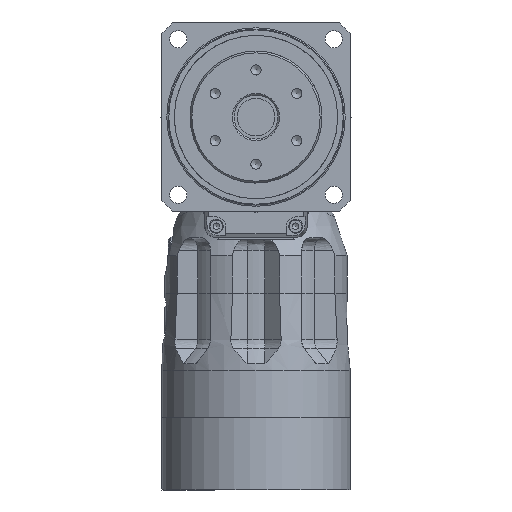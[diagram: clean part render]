
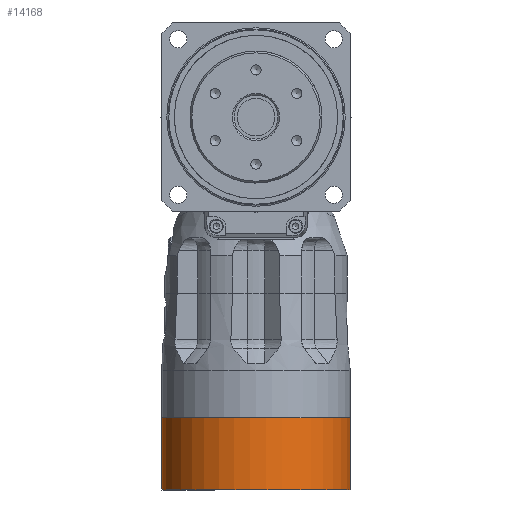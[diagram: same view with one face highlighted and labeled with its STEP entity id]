
A CAD part, left-side view. The second image highlights one B-rep face of the part: STEP entity #14168.
In plain terms, the highlighted cylindrical face has radius 30 mm (diameter 60 mm), a partial arc.
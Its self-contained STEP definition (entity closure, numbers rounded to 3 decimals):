
#2057=FACE_OUTER_BOUND('',#3035,.T.);
#3035=EDGE_LOOP('',(#12945,#12946,#12947,#12948));
#3835=LINE('',#27470,#4514);
#3840=LINE('',#27516,#4519);
#4514=VECTOR('',#20847,10.);
#4519=VECTOR('',#20892,10.);
#5567=CIRCLE('',#16544,30.);
#5588=CIRCLE('',#16569,30.);
#7084=VERTEX_POINT('',#27468);
#7085=VERTEX_POINT('',#27469);
#7088=VERTEX_POINT('',#27477);
#7106=VERTEX_POINT('',#27515);
#9051=EDGE_CURVE('',#7084,#7085,#3835,.T.);
#9056=EDGE_CURVE('',#7084,#7088,#5567,.T.);
#9074=EDGE_CURVE('',#7106,#7088,#3840,.T.);
#9080=EDGE_CURVE('',#7085,#7106,#5588,.T.);
#12945=ORIENTED_EDGE('',*,*,#9056,.F.);
#12946=ORIENTED_EDGE('',*,*,#9051,.T.);
#12947=ORIENTED_EDGE('',*,*,#9080,.T.);
#12948=ORIENTED_EDGE('',*,*,#9074,.T.);
#13441=CYLINDRICAL_SURFACE('',#16568,30.);
#14168=ADVANCED_FACE('',(#2057),#13441,.T.);
#16544=AXIS2_PLACEMENT_3D('',#27479,#20854,#20855);
#16568=AXIS2_PLACEMENT_3D('',#27527,#20905,#20906);
#16569=AXIS2_PLACEMENT_3D('',#27528,#20907,#20908);
#20847=DIRECTION('',(-1.,0.,0.));
#20854=DIRECTION('center_axis',(1.,0.,0.));
#20855=DIRECTION('ref_axis',(0.,0.,1.));
#20892=DIRECTION('',(1.,0.,0.));
#20905=DIRECTION('center_axis',(1.,0.,0.));
#20906=DIRECTION('ref_axis',(0.,0.316,-0.949));
#20907=DIRECTION('center_axis',(1.,0.,0.));
#20908=DIRECTION('ref_axis',(0.,0.,1.));
#27468=CARTESIAN_POINT('',(13.,-18.,24.));
#27469=CARTESIAN_POINT('',(-10.,-18.,24.));
#27470=CARTESIAN_POINT('',(8.,-18.,24.));
#27477=CARTESIAN_POINT('',(13.,0.,30.));
#27479=CARTESIAN_POINT('Origin',(13.,0.,0.));
#27515=CARTESIAN_POINT('',(-10.,0.,30.));
#27516=CARTESIAN_POINT('',(8.,0.,30.));
#27527=CARTESIAN_POINT('Origin',(8.,0.,0.));
#27528=CARTESIAN_POINT('Origin',(-10.,0.,0.));
